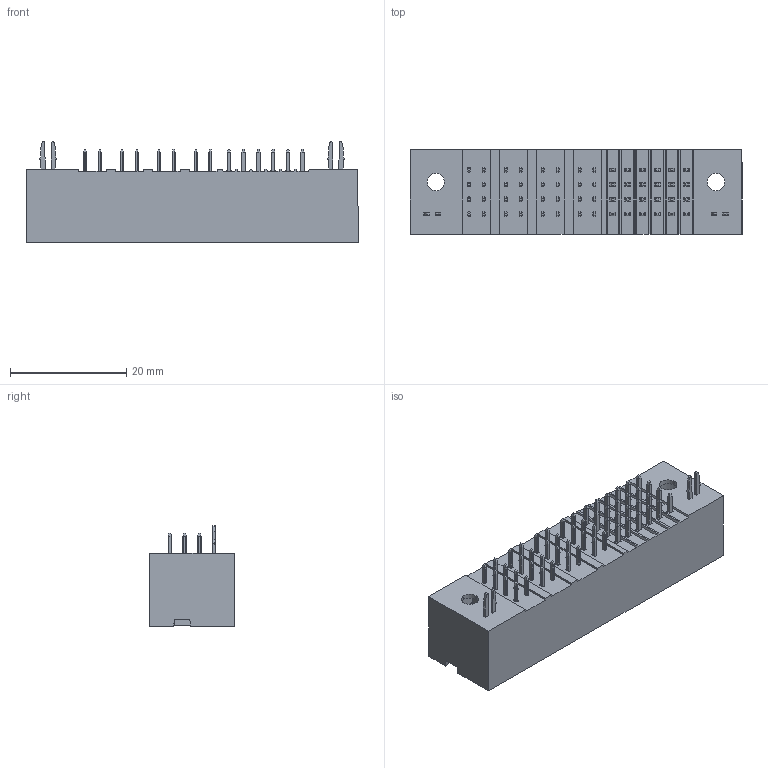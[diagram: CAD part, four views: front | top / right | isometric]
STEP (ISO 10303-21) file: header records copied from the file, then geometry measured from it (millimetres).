
FILE_DESCRIPTION (( 'STEP AP214' ), '1' );
FILE_NAME ('9391-A3S24P04CB30DLA.STEP', '2025-08-06T01:13:30', ( '' ), ( '' ), 'SwSTEP 2.0', 'SolidWorks 2011', '' );
FILE_SCHEMA (( 'AUTOMOTIVE_DESIGN' ));
Length unit declared in the file: millimetre
Products named in the file (1): 9391-A3S24P04CB30DLA
Bounding box: 57.16 x 14.58 x 17.3 mm (x, y, z)
Volume: 5259.2 mm3; surface area: 7104.7 mm2
Topology: 1 solids, 37 shells, 1725 faces, 4444 edges, 2904 vertices
Faces by surface type: plane 1393, cylinder 200, cone 132
Entity records: 69922 total; most frequent: CARTESIAN_POINT 9916, ORIENTED_EDGE 8888, DIRECTION 8242, EDGE_CURVE 4444, LINE 3718, VECTOR 3718, VERTEX_POINT 2904, AXIS2_PLACEMENT_3D 2262
